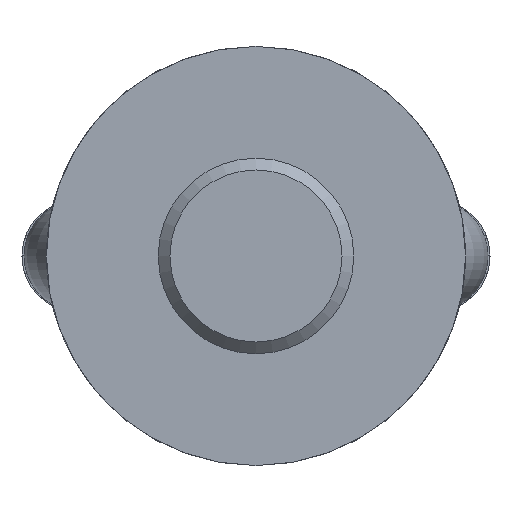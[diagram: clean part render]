
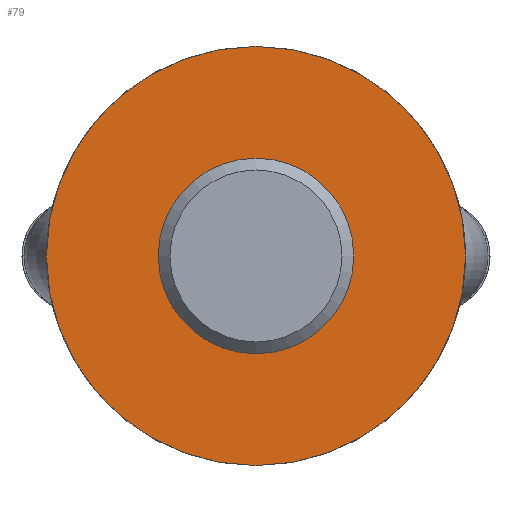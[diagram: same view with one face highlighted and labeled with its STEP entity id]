
A CAD part, front view. The second image highlights one B-rep face of the part: STEP entity #79.
In plain terms, the highlighted planar face has unit normal (0, -1, 0).
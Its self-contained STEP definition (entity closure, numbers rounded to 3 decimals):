
#79 = ADVANCED_FACE( '', ( #115, #116 ), #117, .F. );
#115 = FACE_BOUND( '', #186, .T. );
#116 = FACE_OUTER_BOUND( '', #187, .T. );
#117 = PLANE( '', #188 );
#186 = EDGE_LOOP( '', ( #276 ) );
#187 = EDGE_LOOP( '', ( #277 ) );
#188 = AXIS2_PLACEMENT_3D( '', #278, #279, #280 );
#276 = ORIENTED_EDGE( '', *, *, #464, .T. );
#277 = ORIENTED_EDGE( '', *, *, #465, .T. );
#278 = CARTESIAN_POINT( '', ( 60., 0., 0. ) );
#279 = DIRECTION( '', ( 0., 1., 0. ) );
#280 = DIRECTION( '', ( 0., 0., 1. ) );
#464 = EDGE_CURVE( '', #539, #539, #540, .T. );
#465 = EDGE_CURVE( '', #541, #541, #542, .T. );
#539 = VERTEX_POINT( '', #871 );
#540 = CIRCLE( '', #872, 28. );
#541 = VERTEX_POINT( '', #873 );
#542 = CIRCLE( '', #874, 60. );
#871 = CARTESIAN_POINT( '', ( 0., 0., 28. ) );
#872 = AXIS2_PLACEMENT_3D( '', #1212, #1213, #1214 );
#873 = CARTESIAN_POINT( '', ( 0., 0., -60. ) );
#874 = AXIS2_PLACEMENT_3D( '', #1215, #1216, #1217 );
#1212 = CARTESIAN_POINT( '', ( 0., 0., 0. ) );
#1213 = DIRECTION( '', ( 0., 1., 0. ) );
#1214 = DIRECTION( '', ( 0., 0., 1. ) );
#1215 = CARTESIAN_POINT( '', ( 0., 0., 0. ) );
#1216 = DIRECTION( '', ( 0., -1., 0. ) );
#1217 = DIRECTION( '', ( 0., 0., -1. ) );
